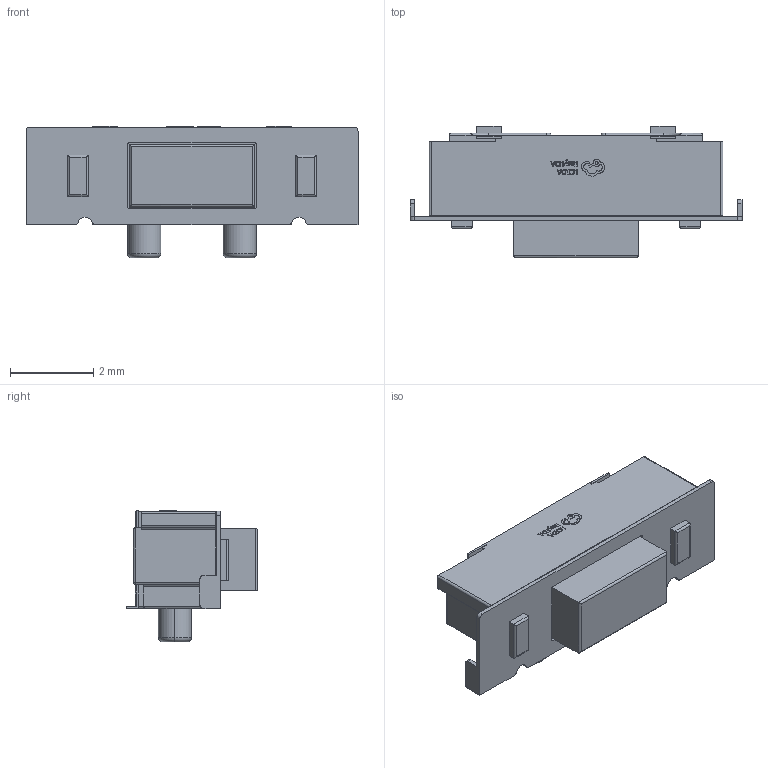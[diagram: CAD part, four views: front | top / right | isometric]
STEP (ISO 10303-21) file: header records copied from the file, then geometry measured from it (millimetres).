
FILE_DESCRIPTION (( 'STEP AP214' ), '1' );
FILE_NAME ('SW-SMD_KH-3635-CAJ.step', '2022-08-12T09:10:03', ( '' ), ( '' ), 'SwSTEP 2.0', 'SolidWorks 2020', '' );
FILE_SCHEMA (( 'AUTOMOTIVE_DESIGN' ));
Length unit declared in the file: millimetre
Products named in the file (3): SW-SMD_KH-3635-CAJ; 褲极; 翋极
Assembly tree (2 placements, depth 2):
  SW-SMD_KH-3635-CAJ
    翋极
    褲极
Bounding box: 8 x 3.18 x 3.17 mm (x, y, z)
Volume: 34.1 mm3; surface area: 111.9 mm2
Topology: 2 solids, 2 shells, 445 faces, 1168 edges, 752 vertices
Faces by surface type: plane 224, bspline 100, cylinder 97, torus 22, sphere 2
Entity records: 19111 total; most frequent: CARTESIAN_POINT 3844, ORIENTED_EDGE 2328, DIRECTION 1778, EDGE_CURVE 1164, LINE 770, VECTOR 770, VERTEX_POINT 752, AXIS2_PLACEMENT_3D 504
